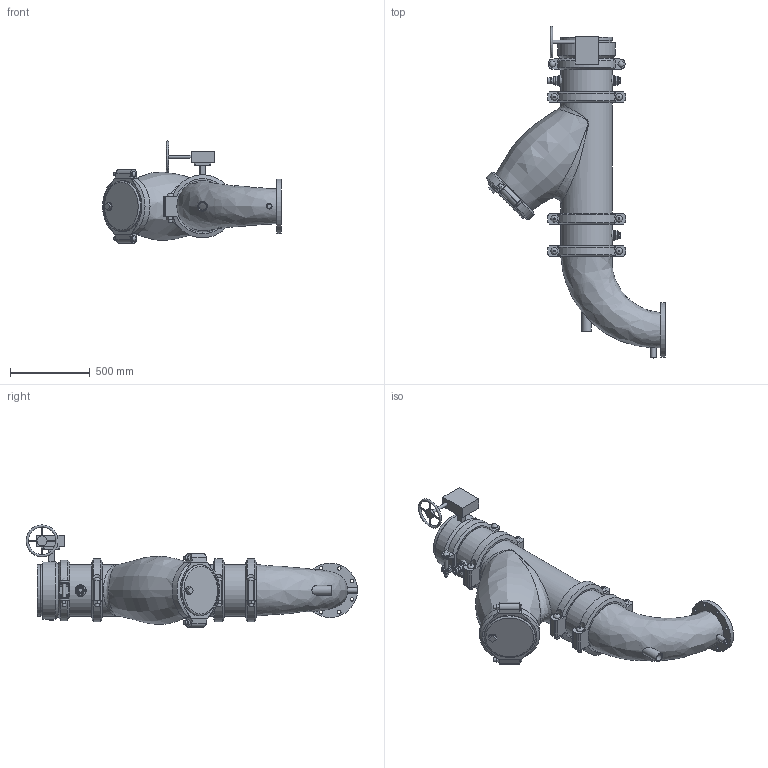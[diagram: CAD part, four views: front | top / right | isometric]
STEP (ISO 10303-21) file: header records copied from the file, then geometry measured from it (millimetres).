
FILE_DESCRIPTION(/* description */ ('VIC SVI PUMP DROP HORZ S/382 (OGSxFLG) (S/924-0.75)','CAx-IF Rec.Pracs.---Representation and Presentation of Product Manufacturing Information (PMI)---4.0---2014-10-13'),/* implementation_level */ '2;1');
FILE_NAME(/* name */ 'C:\Users\Vjadhav\AppData\Roaming\Autodesk\ApplicationPlugins\Victaulic.Temp\A115\Series 382 (OGSxFLG)_924 (0.75)_12.0x08.0 (300x200).stp',/* time_stamp */ '2022-03-17T12:21:11+06:00',/* author */ ('kkamble'),/* organization */ ('Victaulic'),/* preprocessor_version */ 'ST-DEVELOPER v17.2',/* originating_system */ 'Autodesk Inventor 2019',/* authorisation */ '');
FILE_SCHEMA (('AP242_MANAGED_MODEL_BASED_3D_ENGINEERING_MIM_LF { 1 0 10303 442 1 1 4 }'));
Length unit declared in the file: inch
Products named in the file (13): 382_924 (0.75)-12.0x08.0; PIPE-12.0; 107N-12.0; 732-12.0; 732-12.0_1; 07-12.0; 732-12.0_2; 077-12.0; PIPE-12.1; 761-12.0; 924-10.0x0.75; 923-10.0x0.75; R100F-12.0x08.0
Assembly tree (15 placements, depth 3):
  382_924 (0.75)-12.0x08.0
    PIPE-12.0
    107N-12.0
    732-12.0
      732-12.0_1
      07-12.0
      732-12.0_2
    077-12.0  x3
    PIPE-12.1
    761-12.0
    924-10.0x0.75
    923-10.0x0.75  x2
    R100F-12.0x08.0
Bounding box: 1123.95 x 2085.77 x 642.17 mm (x, y, z)
Volume: 45570069.5 mm3; surface area: 7222716.7 mm2
Topology: 14 solids, 23 shells, 743 faces, 1854 edges, 1251 vertices
Faces by surface type: plane 416, cylinder 251, bspline 36, cone 27, torus 9, sphere 4
Full cylindrical faces by diameter (mm): 10.922 x4, 20.066 x1, 21.336 x2, 22.225 x8, 22.352 x8, 22.86 x1, 25.4 x12, 26.67 x4, 27.432 x6, 31.75 x1, 34.29 x1, 37.694 x4, 38.608 x1, 45.974 x6, 48.26 x1, 50.8 x1, 55.626 x3, 60.96 x1, 63.079 x1, 70.104 x1, 76.2 x2, 202.717 x1, 292.1 x1, 303.225 x1, 304.216 x1, 304.546 x1, 304.8 x3, 311.15 x2, 314.96 x3, 318.287 x11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
Entity records: 24209 total; most frequent: CARTESIAN_POINT 9106, DIRECTION 3046, ORIENTED_EDGE 2828, EDGE_CURVE 1414, AXIS2_PLACEMENT_3D 1172, VERTEX_POINT 958, LINE 702, VECTOR 702
